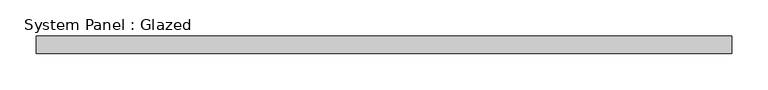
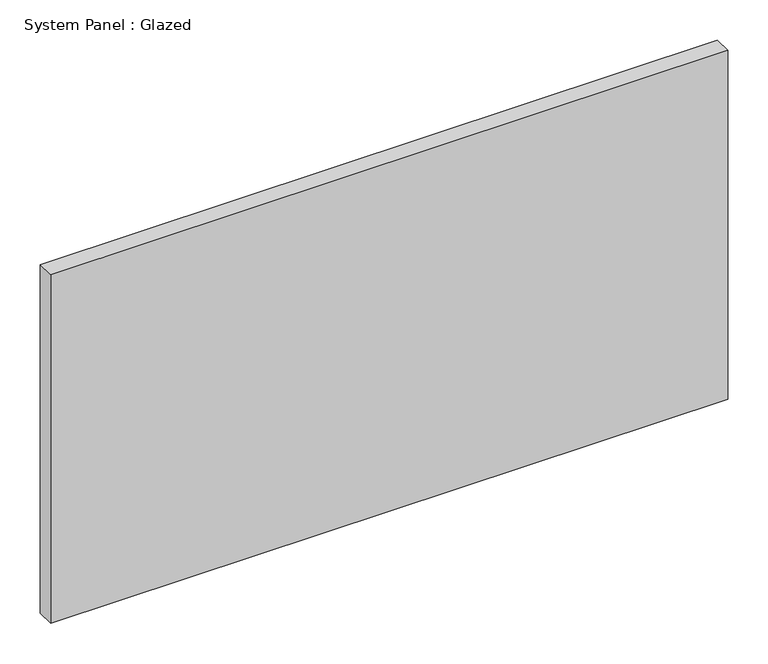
"""IFC4 building model written with IfcOpenShell, lengths in millimetres: plate geometry, System Panel : Glazed."""

from ifc_helpers import new_model, si_unit, origin, origin_with_axes, place, context, project, spatial, polyline, outline, extrude, source, transform, mapped, element, save


def system_panel_glazed_5c63aebc(model_context):
    return source(origin(), model_context, "Body", "SweptSolid", [
        extrude(outline(polyline([(483.3333332, 24.5), (-483.3333332, 24.5), (-483.3333332, 49.5), (483.3333332, 49.5), (483.3333332, 24.5)])), origin_with_axes(), (0.0, 0.0, 1.0), 526.145744),
    ])


if __name__ == "__main__":
    model = new_model("IFC4")
    model_context = context("Model", 3, world=origin())
    ifc_project = project(units=[si_unit("LENGTHUNIT", "METRE", prefix="MILLI")], contexts=[model_context])
    site = spatial("IfcSite", under=ifc_project)
    building = spatial("IfcBuilding", under=site)
    placement = place(None, origin())
    system_panel_glazed_shape = system_panel_glazed_5c63aebc(model_context)
    element("IfcPlate", 1, ObjectType="System Panel : Glazed", at=placement, inside=building, context=model_context, shape_type="MappedRepresentation", body=[
        mapped(system_panel_glazed_shape, transform((0.0, 0.0, 0.0), x_axis=(1.0, 0.0, 0.0), y_axis=(0.0, 1.0, 0.0), z_axis=(0.0, 0.0, 1.0))),
    ])
    save(model, "model.ifc")
